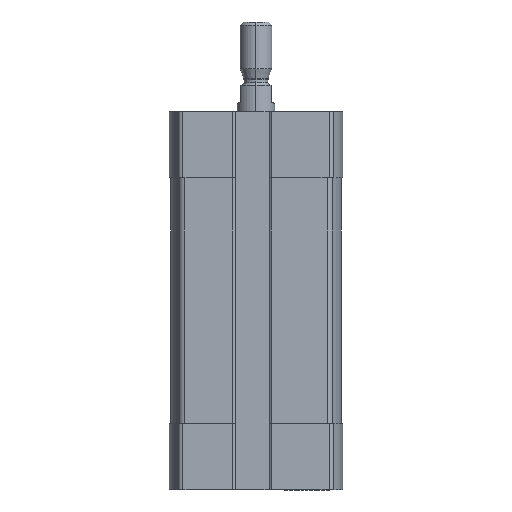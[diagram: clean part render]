
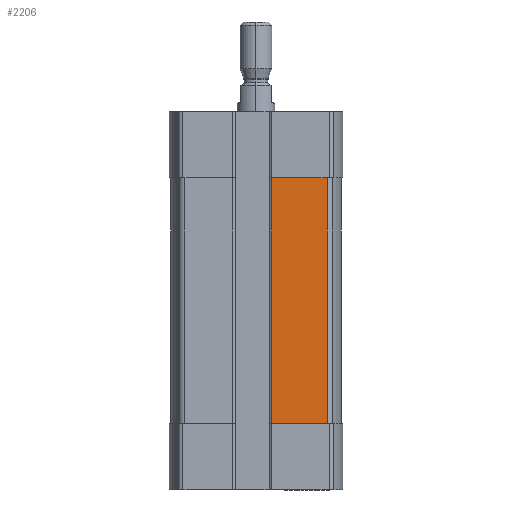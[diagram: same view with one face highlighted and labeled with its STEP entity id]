
A CAD part, left-side view. The second image highlights one B-rep face of the part: STEP entity #2206.
In plain terms, the highlighted planar face has unit normal (-1, 0, 0).
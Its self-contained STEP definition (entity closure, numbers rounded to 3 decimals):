
#411 = VECTOR ( 'NONE', #5313, 1000. ) ;
#702 = LINE ( 'NONE', #3535, #411 ) ;
#891 = EDGE_CURVE ( 'NONE', #11554, #6611, #3481, .T. ) ;
#1116 = VECTOR ( 'NONE', #11062, 1000. ) ;
#1858 = ORIENTED_EDGE ( 'NONE', *, *, #6794, .T. ) ;
#2206 = ADVANCED_FACE ( 'NONE', ( #3597 ), #8174, .T. ) ;
#2437 = EDGE_LOOP ( 'NONE', ( #1858, #4462, #7331, #4637 ) ) ;
#2791 = AXIS2_PLACEMENT_3D ( 'NONE', #6356, #2812, #9074 ) ;
#2812 = DIRECTION ( 'NONE',  ( -1., 0., 0. ) ) ;
#3321 = CARTESIAN_POINT ( 'NONE',  ( -13.5, -2.5, -49.5 ) ) ;
#3481 = LINE ( 'NONE', #7652, #1116 ) ;
#3535 = CARTESIAN_POINT ( 'NONE',  ( -13.5, -2.5, -49.5 ) ) ;
#3597 = FACE_OUTER_BOUND ( 'NONE', #2437, .T. ) ;
#3818 = VECTOR ( 'NONE', #11228, 1000. ) ;
#4096 = CARTESIAN_POINT ( 'NONE',  ( -13.5, -2.5, -49.5 ) ) ;
#4399 = VERTEX_POINT ( 'NONE', #4096 ) ;
#4462 = ORIENTED_EDGE ( 'NONE', *, *, #891, .T. ) ;
#4637 = ORIENTED_EDGE ( 'NONE', *, *, #7464, .T. ) ;
#4758 = LINE ( 'NONE', #3321, #9518 ) ;
#5313 = DIRECTION ( 'NONE',  ( 0., 0., -1. ) ) ;
#5829 = CARTESIAN_POINT ( 'NONE',  ( -13.5, -11.329, -49.5 ) ) ;
#5845 = CARTESIAN_POINT ( 'NONE',  ( -13.5, 0., -10.5 ) ) ;
#6356 = CARTESIAN_POINT ( 'NONE',  ( -13.5, -2.5, -49.5 ) ) ;
#6611 = VERTEX_POINT ( 'NONE', #9253 ) ;
#6694 = EDGE_CURVE ( 'NONE', #6611, #8693, #10991, .T. ) ;
#6794 = EDGE_CURVE ( 'NONE', #4399, #11554, #4758, .T. ) ;
#6937 = DIRECTION ( 'NONE',  ( 0., -1., 0. ) ) ;
#7331 = ORIENTED_EDGE ( 'NONE', *, *, #6694, .T. ) ;
#7464 = EDGE_CURVE ( 'NONE', #8693, #4399, #702, .T. ) ;
#7652 = CARTESIAN_POINT ( 'NONE',  ( -13.5, -11.329, -49.5 ) ) ;
#8174 = PLANE ( 'NONE',  #2791 ) ;
#8693 = VERTEX_POINT ( 'NONE', #11183 ) ;
#9074 = DIRECTION ( 'NONE',  ( 0., 0., 1. ) ) ;
#9253 = CARTESIAN_POINT ( 'NONE',  ( -13.5, -11.329, -10.5 ) ) ;
#9518 = VECTOR ( 'NONE', #6937, 1000. ) ;
#10991 = LINE ( 'NONE', #5845, #3818 ) ;
#11062 = DIRECTION ( 'NONE',  ( 0., 0., 1. ) ) ;
#11183 = CARTESIAN_POINT ( 'NONE',  ( -13.5, -2.5, -10.5 ) ) ;
#11228 = DIRECTION ( 'NONE',  ( 0., 1., 0. ) ) ;
#11554 = VERTEX_POINT ( 'NONE', #5829 ) ;
